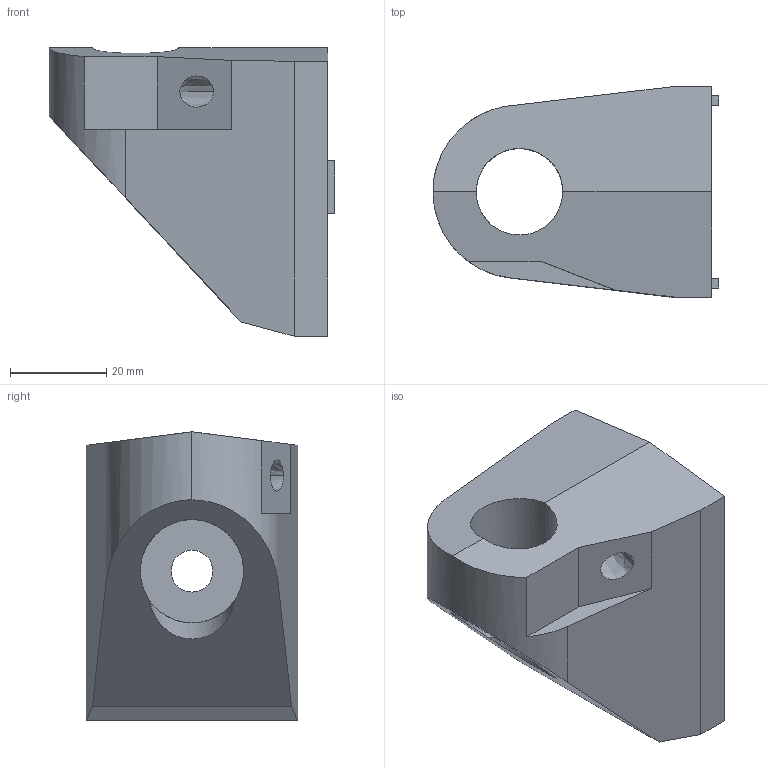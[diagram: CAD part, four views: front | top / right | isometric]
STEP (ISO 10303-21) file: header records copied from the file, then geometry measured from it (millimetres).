
FILE_DESCRIPTION (( 'STEP AP214' ), '1' );
FILE_NAME ('FGRF 42x18v.step', '2017-04-05T07:43:13', ( '' ), ( '' ), 'SwSTEP 2.0', 'SolidWorks 2015', '' );
FILE_SCHEMA (( 'AUTOMOTIVE_DESIGN' ));
Length unit declared in the file: millimetre
Products named in the file (1): FGRF 42x18v
Bounding box: 59.5 x 44 x 60 mm (x, y, z)
Volume: 73260.1 mm3; surface area: 16293.7 mm2
Topology: 1 solids, 1 shells, 36 faces, 89 edges, 57 vertices
Faces by surface type: plane 25, cylinder 9, bspline 2
Entity records: 1244 total; most frequent: CARTESIAN_POINT 396, ORIENTED_EDGE 178, DIRECTION 149, EDGE_CURVE 89, LINE 65, VECTOR 65, VERTEX_POINT 57, EDGE_LOOP 42
